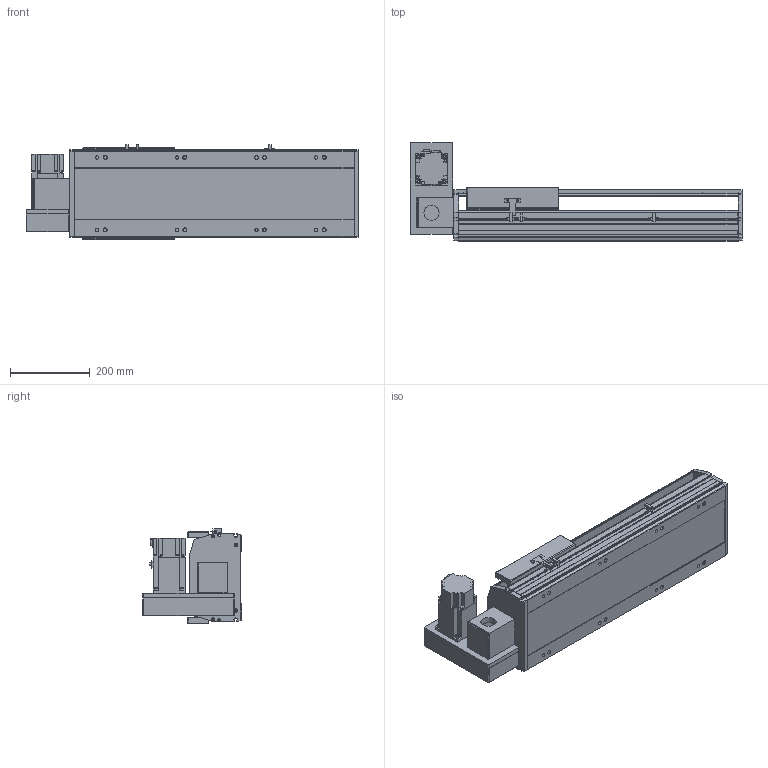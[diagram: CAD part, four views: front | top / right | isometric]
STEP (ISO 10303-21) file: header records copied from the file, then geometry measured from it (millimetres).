
FILE_DESCRIPTION(/* description */ ('STEP AP214'),/* implementation_level */ '2;1');
FILE_NAME(/* name */ 'PBS220-P40-S350-LU-T75-C1-N(0)',/* time_stamp */ '2022-06-13T02:28:52+02:00',/* author */ ('License CC BY-ND 4.0'),/* organization */ ('CADENAS'),/* preprocessor_version */ 'ST-DEVELOPER v18.102',/* originating_system */ 'PARTsolutions',/* authorisation */ ' ');
FILE_SCHEMA (('AUTOMOTIVE_DESIGN {1 0 10303 214 3 1 1}'));
Length unit declared in the file: millimetre
Products named in the file (7): PBS220-P40-S350-LU-T75-C1-N(0); PBS220_sensor; PBS220_plant; PBS220_sliser; T75-p1; PBS220T-LU_motors; PBS220-S350()_body
Assembly tree (8 placements, depth 2):
  PBS220-P40-S350-LU-T75-C1-N(0)
    PBS220_sensor  x3
    PBS220_plant
    PBS220_sliser
    T75-p1
    PBS220T-LU_motors
    PBS220-S350()_body
Bounding box: 834 x 247 x 238.5 mm (x, y, z)
Volume: 12705520.7 mm3; surface area: 1354738.4 mm2
Topology: 8 solids, 8 shells, 866 faces, 2284 edges, 1486 vertices
Faces by surface type: plane 582, cylinder 252, cone 32
Full cylindrical faces by diameter (mm): 2.013 x4, 4.5 x14, 4.917 x4, 6 x7, 6.647 x8, 8 x10, 8.376 x8, 8.5 x8, 10 x6, 14 x8, 38 x2, 40 x1, 70 x1
Entity records: 24381 total; most frequent: DIRECTION 4239, CARTESIAN_POINT 4228, ORIENTED_EDGE 3962, EDGE_CURVE 1981, AXIS2_PLACEMENT_3D 1451, VERTEX_POINT 1352, LINE 1337, VECTOR 1337
